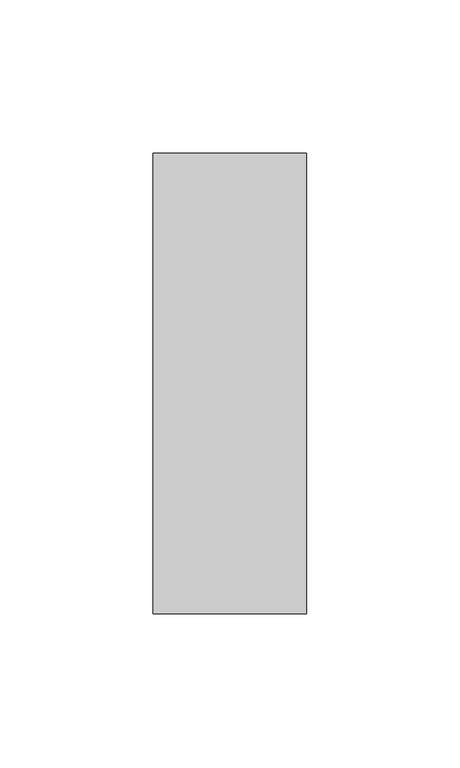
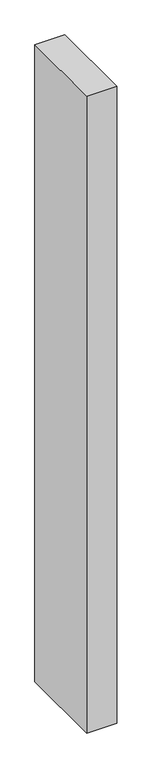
"""IFC4 building model written with IfcOpenShell, lengths in millimetres: member geometry, Прямоугольный импост : 50 x 150 мм."""

from ifc_helpers import new_model, si_unit, frame, origin, place, context, project, spatial, polyline, outline, extrude, source, transform, mapped, element, save


def member_abb61648(model_context):
    return source(origin(), model_context, "Body", "SweptSolid", [
        extrude(outline(polyline([(25.0, 75.0), (25.0, -75.0), (-25.0, -75.0), (-25.0, 75.0), (25.0, 75.0)])), frame((0.0, 0.0, -1124.5178396), z_axis=(0.0, 0.0, 1.0), x_axis=(1.0, 0.0, 0.0)), (0.0, 0.0, 1.0), 1124.5178396),
    ])


if __name__ == "__main__":
    model = new_model("IFC4")
    model_context = context("Model", 3, world=origin())
    ifc_project = project(units=[si_unit("LENGTHUNIT", "METRE", prefix="MILLI")], contexts=[model_context])
    site = spatial("IfcSite", under=ifc_project)
    building = spatial("IfcBuilding", under=site)
    placement = place(None, origin())
    member_shape = member_abb61648(model_context)
    element("IfcMember", 1, ObjectType="Прямоугольный импост : 50 x 150 мм", at=placement, inside=building, context=model_context, shape_type="MappedRepresentation", body=[
        mapped(member_shape, transform((0.0, 0.0, 0.0), x_axis=(1.0, 0.0, 0.0), y_axis=(0.0, 1.0, 0.0), z_axis=(0.0, 0.0, 1.0))),
    ])
    save(model, "model.ifc")
